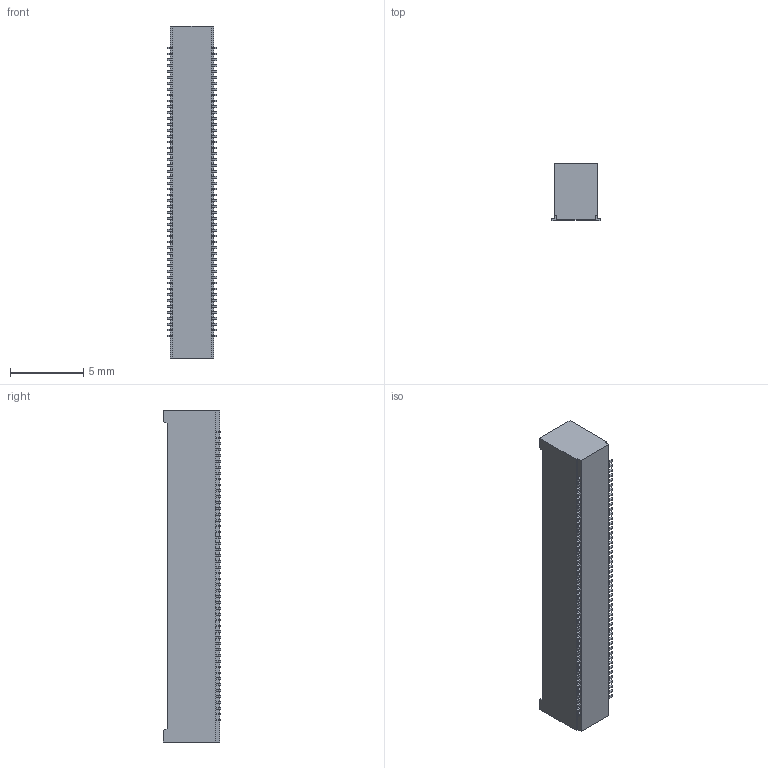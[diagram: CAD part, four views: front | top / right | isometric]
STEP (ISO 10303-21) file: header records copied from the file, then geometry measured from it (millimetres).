
FILE_DESCRIPTION(/* description */ (''),/* implementation_level */ '2;1');
FILE_NAME(/* name */ 'HC-PBB40C-100DS-0.4V-4.0-07.stp',/* time_stamp */ '2026-10-27T17:01:03+08:00',/* author */ (''),/* organization */ (''),/* preprocessor_version */ 'ST-DEVELOPER v16',/* originating_system */ 'SIEMENS PLM Software NX 10.0',/* authorisation */ '');
FILE_SCHEMA (('AUTOMOTIVE_DESIGN { 1 0 10303 214 3 1 1 1 }'));
Products named in the file (1): GY836S100H4_stp
Bounding box: 3.38 x 3.9 x 22.6 mm (x, y, z)
Volume: 213.8 mm3; surface area: 459.6 mm2
Topology: 1 solids, 1 shells, 2096 faces, 5633 edges, 3742 vertices
Faces by surface type: plane 1369, cylinder 712, cone 15
Entity records: 65767 total; most frequent: CARTESIAN_POINT 11916, ORIENTED_EDGE 11266, DIRECTION 11145, EDGE_CURVE 5633, LINE 4083, VECTOR 4083, VERTEX_POINT 3742, AXIS2_PLACEMENT_3D 3531
